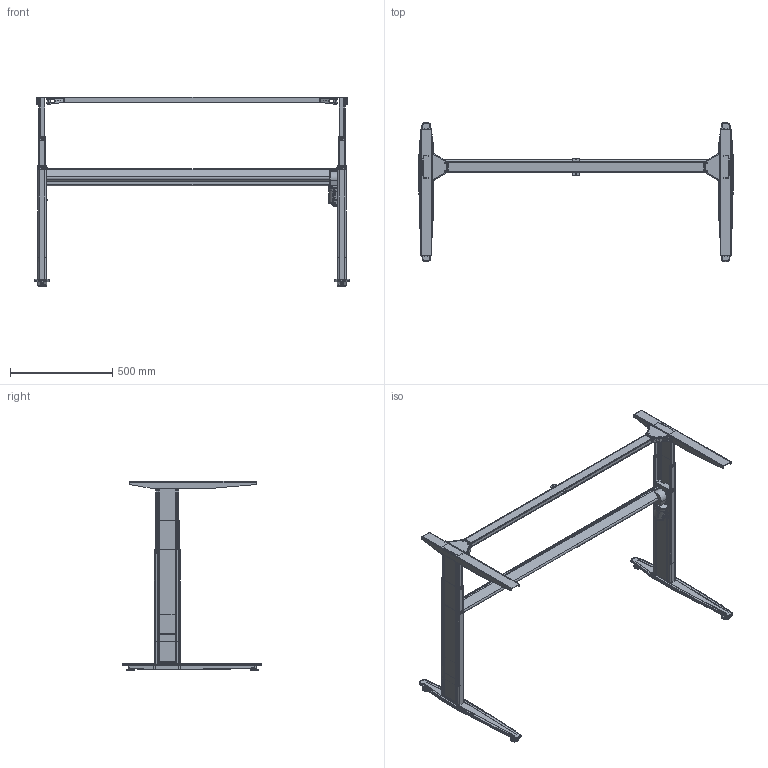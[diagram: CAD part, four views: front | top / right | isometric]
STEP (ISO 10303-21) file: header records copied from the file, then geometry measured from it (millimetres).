
FILE_DESCRIPTION (( 'STEP AP203' ), '1' );
FILE_NAME ('Tech-draw_501-25_XX152.STEP', '2019-12-17T15:35:12', ( '' ), ( '' ), 'SwSTEP 2.0', 'SolidWorks 2018', '' );
FILE_SCHEMA (( 'CONFIG_CONTROL_DESIGN' ));
Length unit declared in the file: millimetre
Products named in the file (50): 350940_shell view; 126350_silver4; Tech-draw_501-25_XX152; 346790; 351120; 337750; 148540_silver1; 148600_shell view; 351170_shell view; 346850; 350980; 148510_silver; 148490_silver1; 304650; 148620_silver; 329590; 124700_silver4; 350930_shell view; 324520_silver; 331230; 346810; 148530_silver; 346830; 351160_shell view; 350950_silver1; 351080; 148500_silver; 346840; 148580_silver; 328460; 329580; 331790_silver4; 350970_shell view; 150240_501-25 XS152; 148610_silver; 346820; 329570_silver; 148560_silver; 350990; 352610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
Assembly tree (88 placements, depth 6):
  Tech-draw_501-25_XX152
    150240_501-25 XS152
      331790_silver4
      124700_silver4
        126350_silver4
          329580
          329590  x2
          331230  x2
        329570_silver  x2
        304650  x2
        337750
      148530_silver
        148500_silver
          148490_silver1
            350930_shell view
            323080
            350940_shell view
            350990
          324520_silver  x2
          350950_silver1
          328450  x2
        148510_silver
          350960_shell view
          351160_shell view
        148610_silver
          148580_silver
            351090
            351120
        304650  x10
        148600_shell view
          142850
            346820  x2
            346850
            346810  x2
            346830
            346840
          346790
          352610
        328460  x2
      148560_silver
        148550_silver
          148540_silver1
            350970_shell view
            323080
            350940_shell view
            350980
          324520_silver  x2
          350950_silver1
          328450  x2
        148570_silver
          350960_shell view
          351170_shell view
        304650  x10
        148630_silver
          148620_silver
            351040_shell view
            351030
          351080
        328460  x2
Bounding box: 1538.5 x 679.97 x 924.4 mm (x, y, z)
Volume: 3155376.7 mm3; surface area: 3529194.4 mm2
Topology: 71 solids, 71 shells, 6230 faces, 15406 edges, 9487 vertices
Faces by surface type: plane 3448, cylinder 1644, bspline 771, torus 255, sphere 96, cone 16
Full cylindrical faces by diameter (mm): 2.8 x4, 3 x6, 3.1 x2, 3.3 x8, 4 x2, 5 x14, 6 x44, 6.2 x2, 6.5 x12, 8 x13, 8.1 x2, 13 x1, 14 x4, 14.5 x1, 15 x4, 16 x1, 18.4 x1, 19 x1, 19.8 x1, 24.2 x1, 29.2 x1, 37.6 x8, 60 x1
Entity records: 107543 total; most frequent: CARTESIAN_POINT 37107, ORIENTED_EDGE 13366, DIRECTION 12983, EDGE_CURVE 6683, AXIS2_PLACEMENT_3D 4348, LINE 4287, VECTOR 4287, VERTEX_POINT 4209
